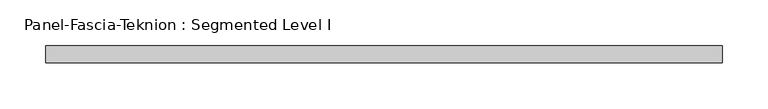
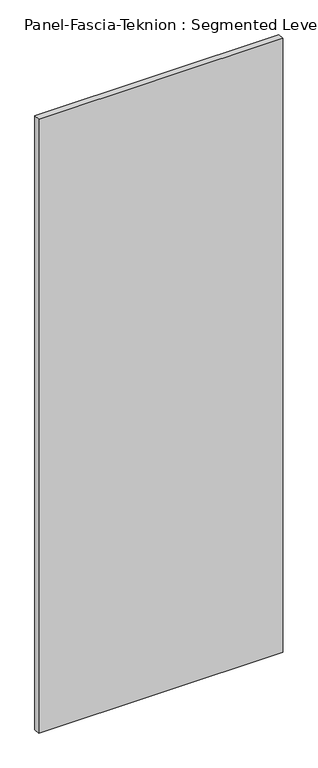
"""IFC4 building model written with IfcOpenShell, lengths in millimetres: proxy geometry, Panel-Fascia-Teknion : Segmented Level I."""

from ifc_helpers import new_model, si_unit, frame, origin, place, context, project, spatial, polyline, outline, extrude, source, transform, mapped, element, save


def panel_fascia_teknion_segmented_level_i_225f9e7f(model_context):
    return source(origin(), model_context, "Body", "SweptSolid", [
        extrude(outline(polyline([(371.4253906, 9.525), (371.4253906, -9.525), (-371.4253906, -9.525), (-371.4253906, 9.525), (371.4253906, 9.525)])), frame((0.0, 0.0, 3.175), z_axis=(0.0, 0.0, 1.0), x_axis=(1.0, 0.0, 0.0)), (0.0, 0.0, 1.0), 1974.85),
    ])


if __name__ == "__main__":
    model = new_model("IFC4")
    model_context = context("Model", 3, world=origin())
    ifc_project = project(units=[si_unit("LENGTHUNIT", "METRE", prefix="MILLI")], contexts=[model_context])
    site = spatial("IfcSite", under=ifc_project)
    building = spatial("IfcBuilding", under=site)
    placement = place(None, origin())
    panel_fascia_teknion_segmented_level_i_shape = panel_fascia_teknion_segmented_level_i_225f9e7f(model_context)
    element("IfcBuildingElementProxy", 1, Name="Panel-Fascia-Teknion : Segmented Level I", ObjectType="Panel-Fascia-Teknion : Segmented Level I", at=placement, inside=building, context=model_context, shape_type="MappedRepresentation", body=[
        mapped(panel_fascia_teknion_segmented_level_i_shape, transform((0.0, 0.0, 0.0), x_axis=(1.0, 0.0, 0.0), y_axis=(0.0, 1.0, 0.0), z_axis=(0.0, 0.0, 1.0))),
    ])
    save(model, "model.ifc")
